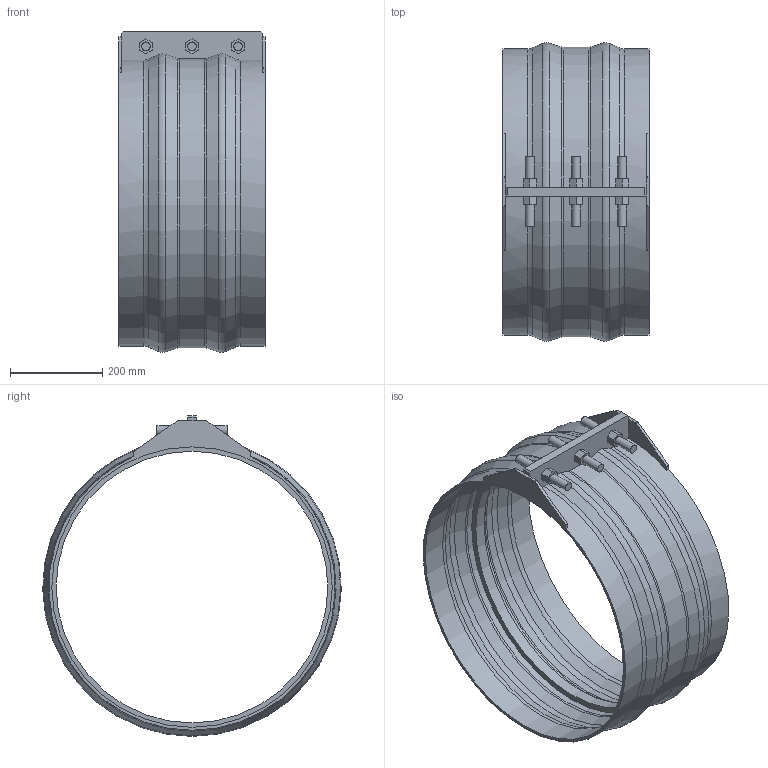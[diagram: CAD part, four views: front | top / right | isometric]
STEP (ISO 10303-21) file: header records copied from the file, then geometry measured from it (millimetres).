
FILE_DESCRIPTION(/* description */ ('VIC RESTRAINED COUPLING STYLE 233 (FLEX) (BRD)','CAx-IF Rec.Pracs.---Representation and Presentation of Product Manufacturing Information (PMI)---4.0---2014-10-13'),/* implementation_level */ '2;1');
FILE_NAME(/* name */ 'C:\Users\Vjadhav\Desktop\CAD for Inventor\Test for STEP\Vivek\Adsk_Inventor_Bolted Sleeve_iParts\STEP\Victaulic_VBSP_Coupling Flexible Restrained_Style 233 (BRD)\Victaulic_VBSP_Coupling Flexible Restrained_Style 233 (BRD)_250psi_24 (600).stp',/* time_stamp */ '2020-09-24T12:29:21+06:00',/* author */ ('Vjadhav'),/* organization */ ('Victaulic'),/* preprocessor_version */ 'ST-DEVELOPER v17.2',/* originating_system */ 'Autodesk Inventor 2019',/* authorisation */ '');
FILE_SCHEMA (('AP242_MANAGED_MODEL_BASED_3D_ENGINEERING_MIM_LF { 1 0 10303 442 1 1 4 }'));
Length unit declared in the file: inch
Products named in the file (1): Style_233_Type_2_250psi-24.0
Bounding box: 317.5 x 648.92 x 697.24 mm (x, y, z)
Volume: 5244207.2 mm3; surface area: 1443807.5 mm2
Topology: 1 solids, 1 shells, 115 faces, 309 edges, 210 vertices
Faces by surface type: plane 73, cylinder 22, torus 12, cone 8
Full cylindrical faces by diameter (mm): 19.05 x6, 590.55 x1, 609.6 x2, 615.95 x2
Entity records: 3970 total; most frequent: CARTESIAN_POINT 764, DIRECTION 645, ORIENTED_EDGE 618, EDGE_CURVE 309, AXIS2_PLACEMENT_3D 227, VERTEX_POINT 210, LINE 191, VECTOR 191
